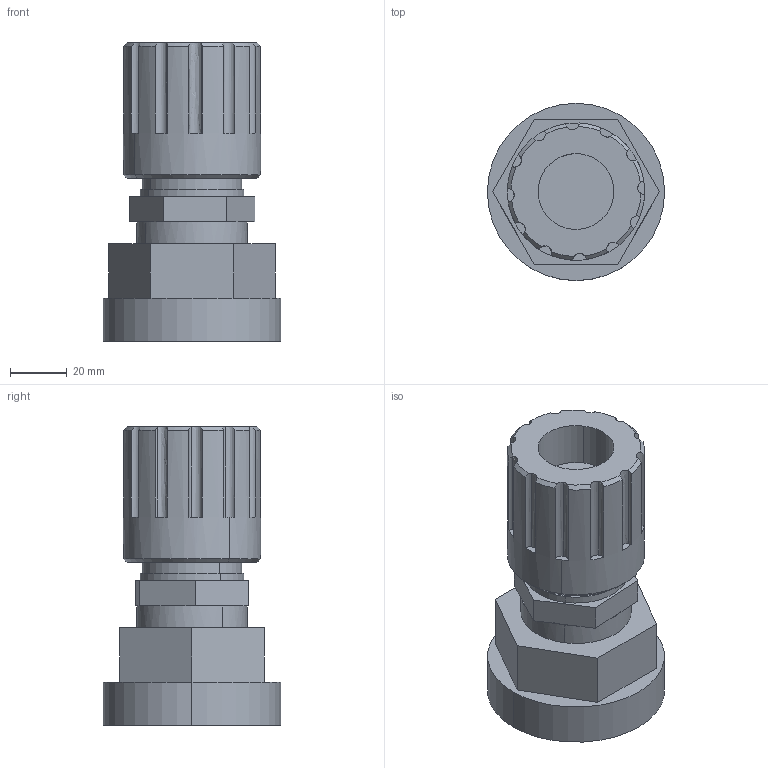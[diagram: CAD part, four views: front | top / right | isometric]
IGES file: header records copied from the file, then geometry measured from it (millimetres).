
Start section: SolidWorks IGES file using analytic representation for surfaces
Global section: file name: S:\Product Visuals\Pumps to be Defeatured\140 fittings\FITTING ASSEMBLIES\DEFEATURED\top-out\16-flaretek-top-out.IGS; native system: SolidWorks 2012; preprocessor: SolidWorks 2012; author: rachel.dressel; date: 121203.135749; units: inch
Bounding box: 62.33 x 62.33 x 104.89 mm (x, y, z)
Volume: 190361.6 mm3; surface area: 26490.9 mm2
Topology: 1 solids, 1 shells, 87 faces, 223 edges, 144 vertices
Faces by surface type: plane 44, revolution 43
